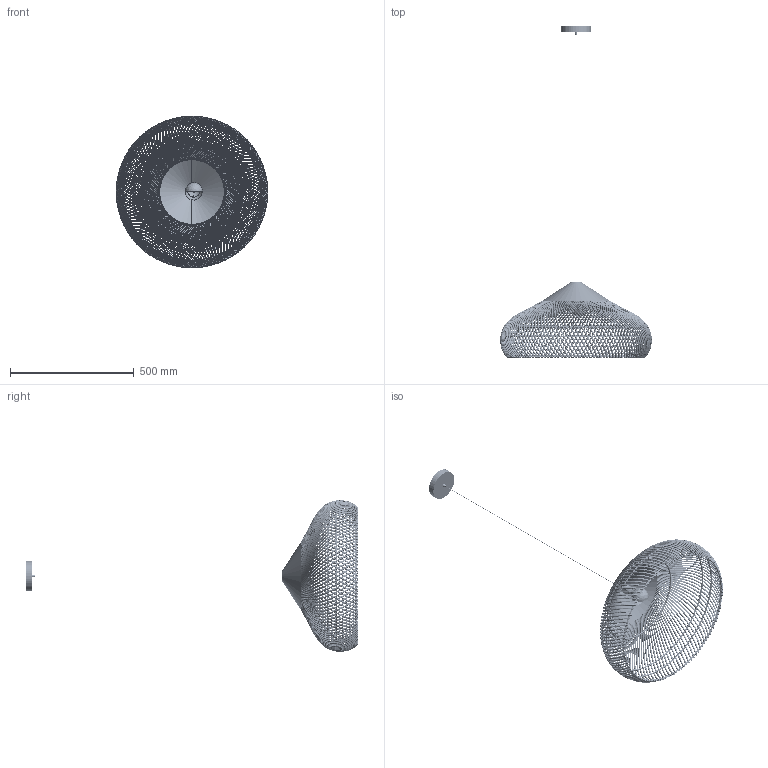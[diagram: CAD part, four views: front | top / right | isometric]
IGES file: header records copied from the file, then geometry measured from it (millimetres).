
Start section: SolidWorks IGES file using analytic representation for surfaces
Global section: file name: F:\燠隴矨\3D\2025-4\Braided Rattan Pendant Lamp-ModelB-D60cm.IGS,15; native system: HSolidWorks 2022; preprocessor: SolidWorks 2022; author: MyPC; date: 250409.115630; units: millimetre
Bounding box: 612.92 x 1341.1 x 612.92 mm (x, y, z)
Surface area: 1168734.3 mm2 (no closed solid volume)
Topology: 0 solids, 0 shells, 599 faces, 9963 edges, 9961 vertices
Faces by surface type: bspline 537, revolution 62
